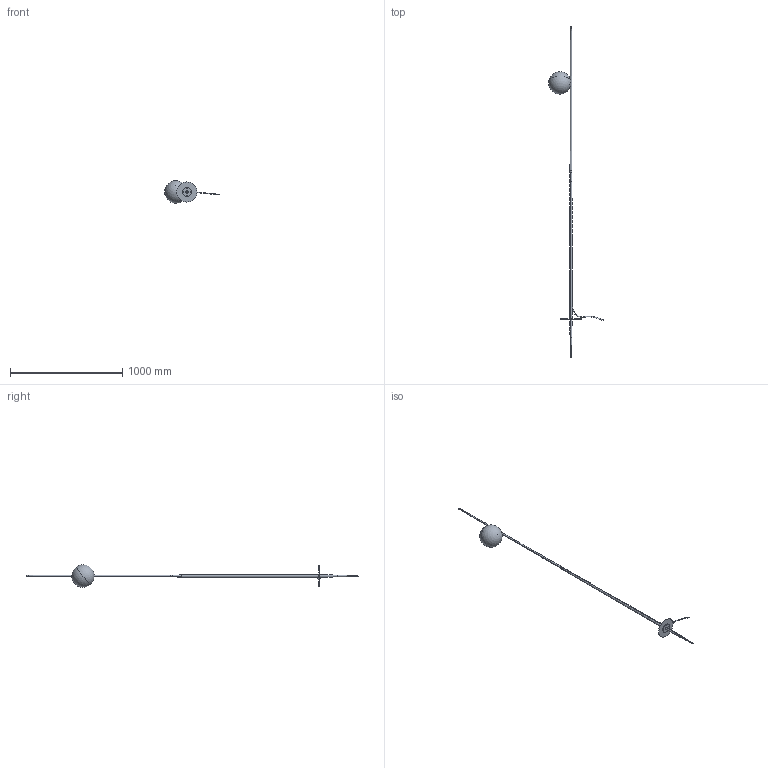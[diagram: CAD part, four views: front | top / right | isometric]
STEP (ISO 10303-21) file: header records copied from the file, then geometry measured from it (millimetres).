
FILE_DESCRIPTION (( 'STEP AP203' ), '1' );
FILE_NAME ('HP302EBEXT.step', '2023-02-16T13:59:10', ( '' ), ( '' ), 'SwSTEP 2.0', 'SolidWorks 2019', '' );
FILE_SCHEMA (( 'CONFIG_CONTROL_DESIGN' ));
Length unit declared in the file: millimetre
Products named in the file (12): 10CP211PZ  picchetto per piantana; Copia di cavo^HP302EBEXT; PR23MU02-G; PR23MU02-F; HP302EBEXT; 10CP211PZ  Picchetto per piantana; PR23MU02-L3; 10CP211TZ  Disco picchetto_svasa in saldatura; PR23MU02-L4; PR23MU02-E; PR23MU02-Attacco a terra; PR23MU02-D2
Assembly tree (11 placements, depth 3):
  HP302EBEXT
    PR23MU02-Attacco a terra
    10CP211PZ  Picchetto per piantana
      10CP211TZ  Disco picchetto_svasa in saldatura
      10CP211PZ  picchetto per piantana
    PR23MU02-L4
    PR23MU02-L3
    PR23MU02-D2
    PR23MU02-E
    PR23MU02-F
    PR23MU02-G
    Copia di cavo^HP302EBEXT
Bounding box: 487.21 x 2953 x 199.93 mm (x, y, z)
Volume: 568830.1 mm3; surface area: 631112.9 mm2
Topology: 10 solids, 10 shells, 139 faces, 346 edges, 223 vertices
Faces by surface type: cylinder 60, plane 31, cone 26, sphere 8, torus 8, bspline 6
Entity records: 8338 total; most frequent: CARTESIAN_POINT 3880, DIRECTION 679, ORIENTED_EDGE 660, EDGE_CURVE 330, AXIS2_PLACEMENT_3D 286, VERTEX_POINT 215, EDGE_LOOP 173, FACE_OUTER_BOUND 139
